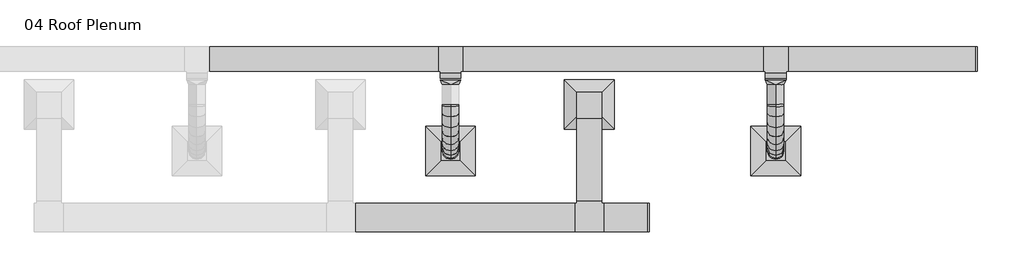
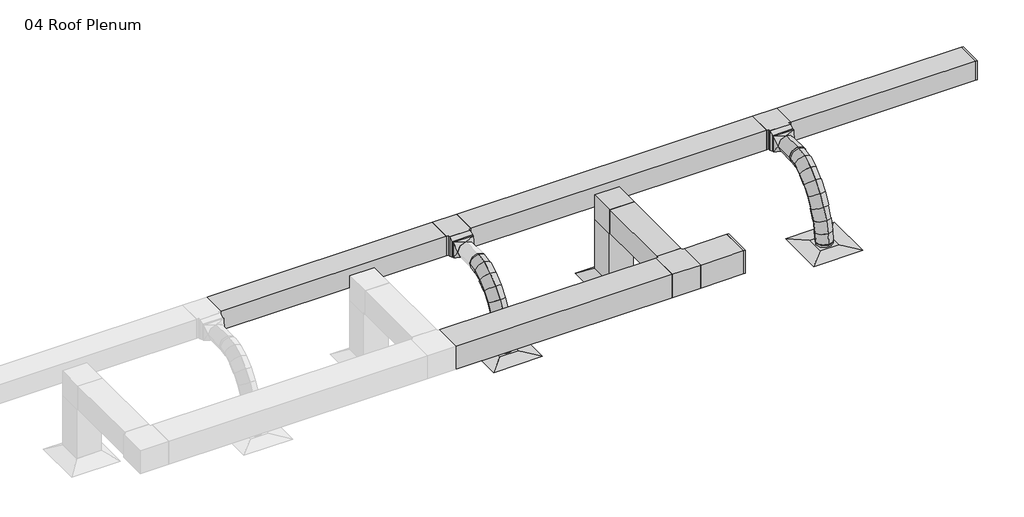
# One storey, part 9 of 9: 11 duct segments, 10 duct fittings, 3 air terminals.
"""IFC4 building model written with IfcOpenShell, lengths in millimetres."""

from ifc_helpers import new_model, si_unit, point, frame, frame_2d, origin, place, context, project, spatial, polyline, circle_curve, ellipse_curve, trimmed, segment, composite_curve, outline, extrude, transform, mapped, element, save
from ifc_brep_helpers import plane_surface, cylinder_surface, advanced_brep
from components import return_diffuser_d30_returndiffuser_24x24_12x12_connection_ff543d60, supply_diffuser_rectangular_face_round_neck_d30_6390248a, rectangular_elbow_mitered_standard_4ff1c4e8, rectangular_endcap_standard_8262ab2a, rectangular_endcap_standard_ef5b1b5f, rectangular_tee_standard_b02a46a0, rectangular_tee_standard_ab376c81, rectangular_transition_angle_45_degree_c4f24900, rectangular_to_round_transition_angle_45_degree_e9430680

model = new_model("IFC4")

# Units and contexts
model_context = context("Model", 3, world=origin())
ifc_project = project(units=[si_unit("LENGTHUNIT", "METRE", prefix="MILLI")], contexts=[model_context])

# Site, building, storey
site = spatial("IfcSite", under=ifc_project)
building = spatial("IfcBuilding", under=site)
storey = spatial("IfcBuildingStorey", under=building, Name="04 Roof Plenum", Elevation=12192.0)

# Air terminals
placement = place(None, origin())
return_diffuser_d30_returndiffuser_24x24_12x12_connection_shape = return_diffuser_d30_returndiffuser_24x24_12x12_connection_ff543d60(model_context)
element("IfcAirTerminal", 1, ObjectType="Return Diffuser : D30_ReturnDiffuser_24x24 12x12 Connection", at=placement, inside=storey, context=model_context, shape_type="MappedRepresentation", body=[
    mapped(return_diffuser_d30_returndiffuser_24x24_12x12_connection_shape, transform((9604.2857295, 10669.6809317, 12192.0), x_axis=(1.0, 0.0, 0.0), y_axis=(0.0, 1.0, 0.0), z_axis=(0.0, 0.0, 1.0))),
])
supply_diffuser_rectangular_face_round_neck_d30_shape = supply_diffuser_rectangular_face_round_neck_d30_6390248a(model_context)
element("IfcAirTerminal", 2, ObjectType="Supply Diffuser - Rectangular Face Round Neck : D30_SupplyDiffuser_24x24 8 Neck", at=placement, inside=storey, context=model_context, shape_type="MappedRepresentation", body=[
    mapped(supply_diffuser_rectangular_face_round_neck_d30_shape, transform((7900.5202951, 10097.0921675, 12192.0), x_axis=(1.0, 0.0, 0.0), y_axis=(0.0, 1.0, 0.0), z_axis=(0.0, 0.0, 1.0))),
])
element("IfcAirTerminal", 3, ObjectType="Supply Diffuser - Rectangular Face Round Neck : D30_SupplyDiffuser_24x24 8 Neck", at=placement, inside=storey, context=model_context, shape_type="MappedRepresentation", body=[
    mapped(supply_diffuser_rectangular_face_round_neck_d30_shape, transform((11896.113352, 10097.0921675, 12192.0), x_axis=(1.0, 0.0, 0.0), y_axis=(0.0, 1.0, 0.0), z_axis=(0.0, 0.0, 1.0))),
])

# Duct fittings
rectangular_elbow_mitered_standard_shape = rectangular_elbow_mitered_standard_4ff1c4e8(model_context)
element("IfcDuctFitting", 4, ObjectType="Rectangular Elbow - Mitered : Standard", at=placement, inside=storey, context=model_context, shape_type="MappedRepresentation", body=[
    mapped(rectangular_elbow_mitered_standard_shape, transform((9604.2857295, 10669.6809317, 13112.75), x_axis=(0.0, 0.0, 1.0), y_axis=(0.0, -1.0, 0.0), z_axis=(1.0, 0.0, 0.0))),
])
rectangular_endcap_standard_shape = rectangular_endcap_standard_8262ab2a(model_context)
element("IfcDuctFitting", 5, ObjectType="Rectangular Endcap : Standard", at=placement, inside=storey, context=model_context, shape_type="MappedRepresentation", body=[
    mapped(rectangular_endcap_standard_shape, transform((10315.4857295, 9280.3101985, 13112.75), x_axis=(1.0, 0.0, 0.0), y_axis=(0.0, 1.0, 0.0), z_axis=(0.0, 0.0, 1.0))),
])
rectangular_endcap_standard_2_shape = rectangular_endcap_standard_ef5b1b5f(model_context)
element("IfcDuctFitting", 6, ObjectType="Rectangular Endcap : Standard", at=placement, inside=storey, context=model_context, shape_type="MappedRepresentation", body=[
    mapped(rectangular_endcap_standard_2_shape, transform((14349.902868, 11228.4809317, 13030.2), x_axis=(1.0, 0.0, 0.0), y_axis=(0.0, 1.0, 0.0), z_axis=(0.0, 0.0, 1.0))),
])
rectangular_tee_standard_shape = rectangular_tee_standard_b02a46a0(model_context)
element("IfcDuctFitting", 7, ObjectType="Rectangular Tee : Standard", at=placement, inside=storey, context=model_context, shape_type="MappedRepresentation", body=[
    mapped(rectangular_tee_standard_shape, transform((9604.2857295, 9280.3101985, 13112.75), x_axis=(-1.0, 0.0, 0.0), y_axis=(0.0, -1.0, 0.0), z_axis=(0.0, 0.0, 1.0))),
])
rectangular_tee_standard_2_shape = rectangular_tee_standard_ab376c81(model_context)
element("IfcDuctFitting", 8, ObjectType="Rectangular Tee : Standard", at=placement, inside=storey, context=model_context, shape_type="MappedRepresentation", body=[
    mapped(rectangular_tee_standard_2_shape, transform((7900.5202951, 11228.4809317, 13030.2), x_axis=(1.0, 0.0, 0.0), y_axis=(0.0, 1.0, 0.0), z_axis=(0.0, 0.0, 1.0))),
])
element("IfcDuctFitting", 9, ObjectType="Rectangular Tee : Standard", at=placement, inside=storey, context=model_context, shape_type="MappedRepresentation", body=[
    mapped(rectangular_tee_standard_2_shape, transform((11896.113352, 11228.4809317, 13030.2), x_axis=(1.0, 0.0, 0.0), y_axis=(0.0, 1.0, 0.0), z_axis=(0.0, 0.0, 1.0))),
])
rectangular_transition_angle_45_degree_shape = rectangular_transition_angle_45_degree_c4f24900(model_context)
element("IfcDuctFitting", 10, ObjectType="Rectangular Transition - Angle : 45 Degree", at=placement, inside=storey, context=model_context, shape_type="MappedRepresentation", body=[
    mapped(rectangular_transition_angle_45_degree_shape, transform((7900.5202951, 11050.6809317, 13030.2), x_axis=(0.0, -1.0, 0.0), y_axis=(1.0, 0.0, 0.0), z_axis=(0.0, 0.0, 1.0))),
])
element("IfcDuctFitting", 11, ObjectType="Rectangular Transition - Angle : 45 Degree", at=placement, inside=storey, context=model_context, shape_type="MappedRepresentation", body=[
    mapped(rectangular_transition_angle_45_degree_shape, transform((11896.113352, 11050.6809317, 13030.2), x_axis=(0.0, -1.0, 0.0), y_axis=(1.0, 0.0, 0.0), z_axis=(0.0, 0.0, 1.0))),
])
rectangular_to_round_transition_angle_45_degree_shape = rectangular_to_round_transition_angle_45_degree_e9430680(model_context)
element("IfcDuctFitting", 12, ObjectType="Rectangular to Round Transition - Angle : 45 Degree", at=placement, inside=storey, context=model_context, shape_type="MappedRepresentation", body=[
    mapped(rectangular_to_round_transition_angle_45_degree_shape, transform((11896.113352, 10974.4809317, 13030.2), x_axis=(0.0, -1.0, 0.0), y_axis=(1.0, 0.0, 0.0), z_axis=(0.0, 0.0, 1.0))),
])
element("IfcDuctFitting", 13, ObjectType="Rectangular to Round Transition - Angle : 45 Degree", at=placement, inside=storey, context=model_context, shape_type="MappedRepresentation", body=[
    mapped(rectangular_to_round_transition_angle_45_degree_shape, transform((7900.5202951, 10974.4809317, 13030.2), x_axis=(0.0, -1.0, 0.0), y_axis=(1.0, 0.0, 0.0), z_axis=(0.0, 0.0, 1.0))),
])

# Duct segments
element("IfcDuctSegment", 14, ObjectType="Flex - Round", at=placement, inside=storey, context=model_context, shape_type="AdvancedBrep", body=[
    advanced_brep(
    [(8002.1202951, 10669.6809317, 13030.2), (7900.5202951, 10669.6809317, 12928.6), (7798.9202951, 10669.6809317, 13030.2), (7900.5202951, 10669.6809317, 13131.8), (8002.1202951, 10652.2882316, 13030.2), (7900.5202951, 10662.5424009, 12928.6), (7798.9202951, 10652.2882316, 13030.2), (7900.5202951, 10642.0340622, 13131.8), (8002.1202951, 10097.0921675, 12245.975), (7900.5202951, 9995.4921675, 12245.975), (7798.9202951, 10097.0921675, 12245.975), (7900.5202951, 10198.6921675, 12245.975), (8002.1202951, 10552.1485052, 13009.7784039), (7900.5202951, 10586.4635053, 12913.0851535), (7798.9202951, 10552.1485052, 13009.7784039), (7900.5202951, 10517.8335052, 13106.4716542), (8002.1202951, 10443.6651982, 12953.1810901), (7900.5202951, 10501.5750524, 12868.7976172), (7798.9202951, 10443.6651982, 12953.1810901), (7900.5202951, 10385.755344, 13037.5645631), (8002.1202951, 10346.2719981, 12867.4092706), (7900.5202951, 10420.5307901, 12797.423909), (7798.9202951, 10346.2719981, 12867.4092706), (7900.5202951, 10272.0132062, 12937.3946321), (8002.1202951, 10262.0098926, 12759.464157), (7900.5202951, 10346.840584, 12703.0220706), (7798.9202951, 10262.0098926, 12759.464157), (7900.5202951, 10177.1792012, 12815.9062434), (8002.1202951, 10192.9198692, 12636.3469613), (7900.5202951, 10284.8852402, 12592.6187474), (7798.9202951, 10192.9198692, 12636.3469613), (7900.5202951, 10100.9544982, 12680.0751753), (8002.1202951, 10141.0429155, 12505.0588954), (7900.5202951, 10238.0545241, 12474.1014926), (7798.9202951, 10141.0429155, 12505.0588954), (7900.5202951, 10044.0313069, 12536.0162982), (8002.1202951, 10108.4200191, 12372.601171), (7900.5202951, 10208.8419323, 12355.4905212), (7798.9202951, 10108.4200191, 12372.601171), (7900.5202951, 10007.9981059, 12389.7118208), (8002.1202951, 10097.0921675, 12255.0278826), (7900.5202951, 10198.6921675, 12250.1447533), (7798.9202951, 10097.0921675, 12255.0278826), (7900.5202951, 9995.4921675, 12259.911012)],
    [
        (0, 1, circle_curve(frame((7900.5202951, 10669.6809317, 13030.2), z_axis=(0.0, 1.0, 0.0), x_axis=(1.0, 0.0, 0.0)), 101.6)),
        (1, 2, circle_curve(frame((7900.5202951, 10669.6809317, 13030.2), z_axis=(0.0, 1.0, 0.0), x_axis=(1.0, 0.0, 0.0)), 101.6)),
        (2, 3, circle_curve(frame((7900.5202951, 10669.6809317, 13030.2), z_axis=(0.0, 1.0, 0.0), x_axis=(1.0, 0.0, 0.0)), 101.6)),
        (3, 0, circle_curve(frame((7900.5202951, 10669.6809317, 13030.2), z_axis=(0.0, 1.0, 0.0), x_axis=(1.0, 0.0, 0.0)), 101.6)),
        (0, 4),
        (4, 5, ellipse_curve(frame((7900.5202951, 10652.2882316, 13030.2), z_axis=(0.0, 0.9949454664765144, 0.1004167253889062), x_axis=(0.0, 0.1004167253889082, -0.9949454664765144)), 102.1161495, 101.6)),
        (5, 1),
        (5, 6, ellipse_curve(frame((7900.5202951, 10652.2882316, 13030.2), z_axis=(0.0, 0.9949454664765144, 0.1004167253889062), x_axis=(0.0, 0.1004167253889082, -0.9949454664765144)), 102.1161495, 101.6)),
        (6, 2),
        (6, 7, ellipse_curve(frame((7900.5202951, 10652.2882316, 13030.2), z_axis=(0.0, 0.9949454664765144, 0.1004167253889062), x_axis=(0.0, 0.1004167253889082, -0.9949454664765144)), 102.1161495, 101.6)),
        (7, 3),
        (7, 4, ellipse_curve(frame((7900.5202951, 10652.2882316, 13030.2), z_axis=(0.0, 0.9949454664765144, 0.1004167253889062), x_axis=(0.0, 0.1004167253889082, -0.9949454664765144)), 102.1161495, 101.6)),
        (8, 9, circle_curve(frame((7900.5202951, 10097.0921675, 12245.975), z_axis=(0.0, 0.0, -1.0), x_axis=(1.0, 0.0, 0.0)), 101.6)),
        (9, 10, circle_curve(frame((7900.5202951, 10097.0921675, 12245.975), z_axis=(0.0, 0.0, -1.0), x_axis=(1.0, 0.0, 0.0)), 101.6)),
        (10, 11, circle_curve(frame((7900.5202951, 10097.0921675, 12245.975), z_axis=(0.0, 0.0, -1.0), x_axis=(1.0, 0.0, 0.0)), 101.6)),
        (11, 8, circle_curve(frame((7900.5202951, 10097.0921675, 12245.975), z_axis=(0.0, 0.0, -1.0), x_axis=(1.0, 0.0, 0.0)), 101.6)),
        (4, 12),
        (12, 13, ellipse_curve(frame((7900.5202951, 10552.1485052, 13009.7784039), z_axis=(0.0, 0.9424139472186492, 0.334448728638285), x_axis=(0.0, 0.33444872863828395, -0.9424139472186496)), 102.6016759, 101.6)),
        (13, 5),
        (13, 14, ellipse_curve(frame((7900.5202951, 10552.1485052, 13009.7784039), z_axis=(0.0, 0.9424139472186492, 0.334448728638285), x_axis=(0.0, 0.33444872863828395, -0.9424139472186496)), 102.6016759, 101.6)),
        (14, 6),
        (14, 15, ellipse_curve(frame((7900.5202951, 10552.1485052, 13009.7784039), z_axis=(0.0, 0.9424139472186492, 0.334448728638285), x_axis=(0.0, 0.33444872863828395, -0.9424139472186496)), 102.6016759, 101.6)),
        (15, 7),
        (15, 12, ellipse_curve(frame((7900.5202951, 10552.1485052, 13009.7784039), z_axis=(0.0, 0.9424139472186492, 0.334448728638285), x_axis=(0.0, 0.33444872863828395, -0.9424139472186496)), 102.6016759, 101.6)),
        (12, 16),
        (16, 17, ellipse_curve(frame((7900.5202951, 10443.6651982, 12953.1810901), z_axis=(0.0, 0.8245150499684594, 0.5658400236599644), x_axis=(0.0, 0.565840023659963, -0.8245150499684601)), 102.3431567, 101.6)),
        (17, 13),
        (17, 18, ellipse_curve(frame((7900.5202951, 10443.6651982, 12953.1810901), z_axis=(0.0, 0.8245150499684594, 0.5658400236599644), x_axis=(0.0, 0.565840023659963, -0.8245150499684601)), 102.3431567, 101.6)),
        (18, 14),
        (18, 19, ellipse_curve(frame((7900.5202951, 10443.6651982, 12953.1810901), z_axis=(0.0, 0.8245150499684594, 0.5658400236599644), x_axis=(0.0, 0.565840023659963, -0.8245150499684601)), 102.3431567, 101.6)),
        (19, 15),
        (19, 16, ellipse_curve(frame((7900.5202951, 10443.6651982, 12953.1810901), z_axis=(0.0, 0.8245150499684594, 0.5658400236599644), x_axis=(0.0, 0.565840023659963, -0.8245150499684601)), 102.3431567, 101.6)),
        (16, 20),
        (20, 21, ellipse_curve(frame((7900.5202951, 10346.2719981, 12867.4092706), z_axis=(0.0, 0.6858568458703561, 0.7277364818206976), x_axis=(0.0, 0.7277364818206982, -0.6858568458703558)), 102.0407714, 101.6)),
        (21, 17),
        (21, 22, ellipse_curve(frame((7900.5202951, 10346.2719981, 12867.4092706), z_axis=(0.0, 0.6858568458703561, 0.7277364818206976), x_axis=(0.0, 0.7277364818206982, -0.6858568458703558)), 102.0407714, 101.6)),
        (22, 18),
        (22, 23, ellipse_curve(frame((7900.5202951, 10346.2719981, 12867.4092706), z_axis=(0.0, 0.6858568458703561, 0.7277364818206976), x_axis=(0.0, 0.7277364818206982, -0.6858568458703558)), 102.0407714, 101.6)),
        (23, 19),
        (23, 20, ellipse_curve(frame((7900.5202951, 10346.2719981, 12867.4092706), z_axis=(0.0, 0.6858568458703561, 0.7277364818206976), x_axis=(0.0, 0.7277364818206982, -0.6858568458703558)), 102.0407714, 101.6)),
        (20, 24),
        (24, 25, ellipse_curve(frame((7900.5202951, 10262.0098926, 12759.464157), z_axis=(0.0, 0.5539409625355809, 0.8325559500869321), x_axis=(0.0, 0.8325559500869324, -0.5539409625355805)), 101.8918805, 101.6)),
        (25, 21),
        (25, 26, ellipse_curve(frame((7900.5202951, 10262.0098926, 12759.464157), z_axis=(0.0, 0.5539409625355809, 0.8325559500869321), x_axis=(0.0, 0.8325559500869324, -0.5539409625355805)), 101.8918805, 101.6)),
        (26, 22),
        (26, 27, ellipse_curve(frame((7900.5202951, 10262.0098926, 12759.464157), z_axis=(0.0, 0.5539409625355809, 0.8325559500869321), x_axis=(0.0, 0.8325559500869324, -0.5539409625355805)), 101.8918805, 101.6)),
        (27, 23),
        (27, 24, ellipse_curve(frame((7900.5202951, 10262.0098926, 12759.464157), z_axis=(0.0, 0.5539409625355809, 0.8325559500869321), x_axis=(0.0, 0.8325559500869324, -0.5539409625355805)), 101.8918805, 101.6)),
        (24, 28),
        (28, 29, ellipse_curve(frame((7900.5202951, 10192.9198692, 12636.3469613), z_axis=(0.0, 0.4294146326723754, 0.9031074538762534), x_axis=(0.0, 0.903107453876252, -0.4294146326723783)), 101.832147, 101.6)),
        (29, 25),
        (29, 30, ellipse_curve(frame((7900.5202951, 10192.9198692, 12636.3469613), z_axis=(0.0, 0.4294146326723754, 0.9031074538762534), x_axis=(0.0, 0.903107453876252, -0.4294146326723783)), 101.832147, 101.6)),
        (30, 26),
        (30, 31, ellipse_curve(frame((7900.5202951, 10192.9198692, 12636.3469613), z_axis=(0.0, 0.4294146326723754, 0.9031074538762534), x_axis=(0.0, 0.903107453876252, -0.4294146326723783)), 101.832147, 101.6)),
        (31, 27),
        (31, 28, ellipse_curve(frame((7900.5202951, 10192.9198692, 12636.3469613), z_axis=(0.0, 0.4294146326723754, 0.9031074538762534), x_axis=(0.0, 0.903107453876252, -0.4294146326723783)), 101.832147, 101.6)),
        (28, 32),
        (32, 33, ellipse_curve(frame((7900.5202951, 10141.0429155, 12505.0588954), z_axis=(0.0, 0.3040067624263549, 0.9526698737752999), x_axis=(0.0, 0.9526698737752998, -0.30400676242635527)), 101.8312967, 101.6)),
        (33, 29),
        (33, 34, ellipse_curve(frame((7900.5202951, 10141.0429155, 12505.0588954), z_axis=(0.0, 0.3040067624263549, 0.9526698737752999), x_axis=(0.0, 0.9526698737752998, -0.30400676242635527)), 101.8312967, 101.6)),
        (34, 30),
        (34, 35, ellipse_curve(frame((7900.5202951, 10141.0429155, 12505.0588954), z_axis=(0.0, 0.3040067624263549, 0.9526698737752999), x_axis=(0.0, 0.9526698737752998, -0.30400676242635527)), 101.8312967, 101.6)),
        (35, 31),
        (35, 32, ellipse_curve(frame((7900.5202951, 10141.0429155, 12505.0588954), z_axis=(0.0, 0.3040067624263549, 0.9526698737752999), x_axis=(0.0, 0.9526698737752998, -0.30400676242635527)), 101.8312967, 101.6)),
        (32, 36),
        (36, 37, ellipse_curve(frame((7900.5202951, 10108.4200191, 12372.601171), z_axis=(0.0, 0.16796685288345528, 0.9857926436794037), x_axis=(0.0, 0.9857926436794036, -0.1679668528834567)), 101.8692053, 101.6)),
        (37, 33),
        (37, 38, ellipse_curve(frame((7900.5202951, 10108.4200191, 12372.601171), z_axis=(0.0, 0.16796685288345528, 0.9857926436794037), x_axis=(0.0, 0.9857926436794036, -0.1679668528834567)), 101.8692053, 101.6)),
        (38, 34),
        (38, 39, ellipse_curve(frame((7900.5202951, 10108.4200191, 12372.601171), z_axis=(0.0, 0.16796685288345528, 0.9857926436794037), x_axis=(0.0, 0.9857926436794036, -0.1679668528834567)), 101.8692053, 101.6)),
        (39, 35),
        (39, 36, ellipse_curve(frame((7900.5202951, 10108.4200191, 12372.601171), z_axis=(0.0, 0.16796685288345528, 0.9857926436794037), x_axis=(0.0, 0.9857926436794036, -0.1679668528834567)), 101.8692053, 101.6)),
        (36, 40),
        (40, 41, ellipse_curve(frame((7900.5202951, 10097.0921675, 12255.0278826), z_axis=(0.0, 0.0480068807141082, 0.9988470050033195), x_axis=(0.0, 0.9988470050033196, -0.048006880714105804)), 101.7172795, 101.6)),
        (41, 37),
        (41, 42, ellipse_curve(frame((7900.5202951, 10097.0921675, 12255.0278826), z_axis=(0.0, 0.0480068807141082, 0.9988470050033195), x_axis=(0.0, 0.9988470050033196, -0.048006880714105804)), 101.7172795, 101.6)),
        (42, 38),
        (42, 43, ellipse_curve(frame((7900.5202951, 10097.0921675, 12255.0278826), z_axis=(0.0, 0.0480068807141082, 0.9988470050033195), x_axis=(0.0, 0.9988470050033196, -0.048006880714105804)), 101.7172795, 101.6)),
        (43, 39),
        (43, 40, ellipse_curve(frame((7900.5202951, 10097.0921675, 12255.0278826), z_axis=(0.0, 0.0480068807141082, 0.9988470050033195), x_axis=(0.0, 0.9988470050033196, -0.048006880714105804)), 101.7172795, 101.6)),
        (40, 8),
        (11, 41),
        (10, 42),
        (9, 43),
    ],
    [
        plane_surface(frame((7798.9202951, 10669.6809317, 13030.2), z_axis=(0.0, 1.0, 0.0), x_axis=(0.0, 0.0, -1.0))),
        cylinder_surface(frame((7900.5202951, 10669.6809317, 13030.2), z_axis=(0.0, 1.0, 0.0), x_axis=(1.0, 0.0, 0.0)), 101.6),
        plane_surface(frame((7900.5202951, 9995.4921675, 12245.975), z_axis=(0.0, 0.0, -1.0), x_axis=(-1.0, 0.0, 0.0))),
        cylinder_surface(frame((7900.5202951, 10652.2882316, 13030.2), z_axis=(0.0, 0.979832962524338, 0.1998183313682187), x_axis=(1.0, 0.0, 0.0)), 101.6),
        cylinder_surface(frame((7900.5202951, 10552.1485052, 13009.7784039), z_axis=(0.0, 0.8865938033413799, 0.4625488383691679), x_axis=(1.0, 0.0, 0.0)), 101.6),
        cylinder_surface(frame((7900.5202951, 10443.6651982, 12953.1810901), z_axis=(0.0, 0.7504619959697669, 0.6609136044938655), x_axis=(1.0, 0.0, 0.0)), 101.6),
        cylinder_surface(frame((7900.5202951, 10346.2719981, 12867.4092706), z_axis=(0.0, 0.6153264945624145, 0.7882723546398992), x_axis=(1.0, 0.0, 0.0)), 101.6),
        cylinder_surface(frame((7900.5202951, 10262.0098926, 12759.464157), z_axis=(0.0, 0.4893817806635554, 0.8720696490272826), x_axis=(1.0, 0.0, 0.0)), 101.6),
        cylinder_surface(frame((7900.5202951, 10192.9198692, 12636.3469613), z_axis=(0.0, 0.367489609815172, 0.9300276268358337), x_axis=(1.0, 0.0, 0.0)), 101.6),
        cylinder_surface(frame((7900.5202951, 10141.0429155, 12505.0588954), z_axis=(0.0, 0.23914289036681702, 0.9709843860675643), x_axis=(1.0, 0.0, 0.0)), 101.6),
        cylinder_surface(frame((7900.5202951, 10108.4200191, 12372.601171), z_axis=(0.0, 0.09590305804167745, 0.9953906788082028), x_axis=(1.0, 0.0, 0.0)), 101.6),
        cylinder_surface(frame((7900.5202951, 10097.0921675, 12255.0278826), z_axis=(0.0, 0.0, 1.0), x_axis=(1.0, 0.0, 0.0)), 101.6),
    ],
    [
        (0, [[1, 2, 3, 4]]),
        (1, [[-1, 5, 6, 7]]),
        (1, [[-2, -7, 8, 9]]),
        (1, [[-3, -9, 10, 11]]),
        (1, [[-4, -11, 12, -5]]),
        (2, [[13, 14, 15, 16]]),
        (3, [[-6, 17, 18, 19]]),
        (3, [[-8, -19, 20, 21]]),
        (3, [[-10, -21, 22, 23]]),
        (3, [[-12, -23, 24, -17]]),
        (4, [[-18, 25, 26, 27]]),
        (4, [[-20, -27, 28, 29]]),
        (4, [[-22, -29, 30, 31]]),
        (4, [[-24, -31, 32, -25]]),
        (5, [[-26, 33, 34, 35]]),
        (5, [[-28, -35, 36, 37]]),
        (5, [[-30, -37, 38, 39]]),
        (5, [[-32, -39, 40, -33]]),
        (6, [[-34, 41, 42, 43]]),
        (6, [[-36, -43, 44, 45]]),
        (6, [[-38, -45, 46, 47]]),
        (6, [[-40, -47, 48, -41]]),
        (7, [[-42, 49, 50, 51]]),
        (7, [[-44, -51, 52, 53]]),
        (7, [[-46, -53, 54, 55]]),
        (7, [[-48, -55, 56, -49]]),
        (8, [[-50, 57, 58, 59]]),
        (8, [[-52, -59, 60, 61]]),
        (8, [[-54, -61, 62, 63]]),
        (8, [[-56, -63, 64, -57]]),
        (9, [[-58, 65, 66, 67]]),
        (9, [[-60, -67, 68, 69]]),
        (9, [[-62, -69, 70, 71]]),
        (9, [[-64, -71, 72, -65]]),
        (10, [[-66, 73, 74, 75]]),
        (10, [[-68, -75, 76, 77]]),
        (10, [[-70, -77, 78, 79]]),
        (10, [[-72, -79, 80, -73]]),
        (11, [[-74, 81, -16, 82]]),
        (11, [[-76, -82, -15, 83]]),
        (11, [[-78, -83, -14, 84]]),
        (11, [[-80, -84, -13, -81]]),
    ],
),
])
element("IfcDuctSegment", 15, ObjectType="Flex - Round", at=placement, inside=storey, context=model_context, shape_type="AdvancedBrep", body=[
    advanced_brep(
    [(11997.713352, 10669.6809317, 13030.2), (11896.113352, 10669.6809317, 12928.6), (11794.513352, 10669.6809317, 13030.2), (11896.113352, 10669.6809317, 13131.8), (11997.713352, 10652.2882316, 13030.2), (11896.113352, 10662.5424009, 12928.6), (11794.513352, 10652.2882316, 13030.2), (11896.113352, 10642.0340622, 13131.8), (11997.713352, 10097.0921675, 12245.975), (11896.113352, 9995.4921675, 12245.975), (11794.513352, 10097.0921675, 12245.975), (11896.113352, 10198.6921675, 12245.975), (11997.713352, 10552.1485052, 13009.7784039), (11896.113352, 10586.4635053, 12913.0851535), (11794.513352, 10552.1485052, 13009.7784039), (11896.113352, 10517.8335052, 13106.4716542), (11997.713352, 10443.6651982, 12953.1810901), (11896.113352, 10501.5750524, 12868.7976172), (11794.513352, 10443.6651982, 12953.1810901), (11896.113352, 10385.755344, 13037.5645631), (11997.713352, 10346.2719981, 12867.4092706), (11896.113352, 10420.5307901, 12797.423909), (11794.513352, 10346.2719981, 12867.4092706), (11896.113352, 10272.0132062, 12937.3946321), (11997.713352, 10262.0098926, 12759.464157), (11896.113352, 10346.840584, 12703.0220706), (11794.513352, 10262.0098926, 12759.464157), (11896.113352, 10177.1792012, 12815.9062434), (11997.713352, 10192.9198692, 12636.3469613), (11896.113352, 10284.8852402, 12592.6187474), (11794.513352, 10192.9198692, 12636.3469613), (11896.113352, 10100.9544982, 12680.0751753), (11997.713352, 10141.0429155, 12505.0588954), (11896.113352, 10238.0545241, 12474.1014926), (11794.513352, 10141.0429155, 12505.0588954), (11896.113352, 10044.0313069, 12536.0162982), (11997.713352, 10108.4200191, 12372.601171), (11896.113352, 10208.8419323, 12355.4905212), (11794.513352, 10108.4200191, 12372.601171), (11896.113352, 10007.9981059, 12389.7118208), (11997.713352, 10097.0921675, 12255.0278826), (11896.113352, 10198.6921675, 12250.1447533), (11794.513352, 10097.0921675, 12255.0278826), (11896.113352, 9995.4921675, 12259.911012)],
    [
        (0, 1, circle_curve(frame((11896.113352, 10669.6809317, 13030.2), z_axis=(0.0, 1.0, 0.0), x_axis=(1.0, 0.0, 0.0)), 101.6)),
        (1, 2, circle_curve(frame((11896.113352, 10669.6809317, 13030.2), z_axis=(0.0, 1.0, 0.0), x_axis=(1.0, 0.0, 0.0)), 101.6)),
        (2, 3, circle_curve(frame((11896.113352, 10669.6809317, 13030.2), z_axis=(0.0, 1.0, 0.0), x_axis=(1.0, 0.0, 0.0)), 101.6)),
        (3, 0, circle_curve(frame((11896.113352, 10669.6809317, 13030.2), z_axis=(0.0, 1.0, 0.0), x_axis=(1.0, 0.0, 0.0)), 101.6)),
        (0, 4),
        (4, 5, ellipse_curve(frame((11896.113352, 10652.2882316, 13030.2), z_axis=(0.0, 0.9949454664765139, 0.1004167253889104), x_axis=(0.0, 0.10041672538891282, -0.9949454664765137)), 102.1161495, 101.6)),
        (5, 1),
        (5, 6, ellipse_curve(frame((11896.113352, 10652.2882316, 13030.2), z_axis=(0.0, 0.9949454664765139, 0.1004167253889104), x_axis=(0.0, 0.10041672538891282, -0.9949454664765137)), 102.1161495, 101.6)),
        (6, 2),
        (6, 7, ellipse_curve(frame((11896.113352, 10652.2882316, 13030.2), z_axis=(0.0, 0.9949454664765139, 0.1004167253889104), x_axis=(0.0, 0.10041672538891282, -0.9949454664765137)), 102.1161495, 101.6)),
        (7, 3),
        (7, 4, ellipse_curve(frame((11896.113352, 10652.2882316, 13030.2), z_axis=(0.0, 0.9949454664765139, 0.1004167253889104), x_axis=(0.0, 0.10041672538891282, -0.9949454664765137)), 102.1161495, 101.6)),
        (8, 9, circle_curve(frame((11896.113352, 10097.0921675, 12245.975), z_axis=(0.0, 0.0, -1.0), x_axis=(1.0, 0.0, 0.0)), 101.6)),
        (9, 10, circle_curve(frame((11896.113352, 10097.0921675, 12245.975), z_axis=(0.0, 0.0, -1.0), x_axis=(1.0, 0.0, 0.0)), 101.6)),
        (10, 11, circle_curve(frame((11896.113352, 10097.0921675, 12245.975), z_axis=(0.0, 0.0, -1.0), x_axis=(1.0, 0.0, 0.0)), 101.6)),
        (11, 8, circle_curve(frame((11896.113352, 10097.0921675, 12245.975), z_axis=(0.0, 0.0, -1.0), x_axis=(1.0, 0.0, 0.0)), 101.6)),
        (4, 12),
        (12, 13, ellipse_curve(frame((11896.113352, 10552.1485052, 13009.7784039), z_axis=(0.0, 0.9424139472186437, 0.33444872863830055), x_axis=(0.0, 0.3344487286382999, -0.9424139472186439)), 102.6016759, 101.6)),
        (13, 5),
        (13, 14, ellipse_curve(frame((11896.113352, 10552.1485052, 13009.7784039), z_axis=(0.0, 0.9424139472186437, 0.33444872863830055), x_axis=(0.0, 0.3344487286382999, -0.9424139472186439)), 102.6016759, 101.6)),
        (14, 6),
        (14, 15, ellipse_curve(frame((11896.113352, 10552.1485052, 13009.7784039), z_axis=(0.0, 0.9424139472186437, 0.33444872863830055), x_axis=(0.0, 0.3344487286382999, -0.9424139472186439)), 102.6016759, 101.6)),
        (15, 7),
        (15, 12, ellipse_curve(frame((11896.113352, 10552.1485052, 13009.7784039), z_axis=(0.0, 0.9424139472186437, 0.33444872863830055), x_axis=(0.0, 0.3344487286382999, -0.9424139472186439)), 102.6016759, 101.6)),
        (12, 16),
        (16, 17, ellipse_curve(frame((11896.113352, 10443.6651982, 12953.1810901), z_axis=(0.0, 0.8245150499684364, 0.5658400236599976), x_axis=(0.0, 0.5658400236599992, -0.8245150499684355)), 102.3431567, 101.6)),
        (17, 13),
        (17, 18, ellipse_curve(frame((11896.113352, 10443.6651982, 12953.1810901), z_axis=(0.0, 0.8245150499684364, 0.5658400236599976), x_axis=(0.0, 0.5658400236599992, -0.8245150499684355)), 102.3431567, 101.6)),
        (18, 14),
        (18, 19, ellipse_curve(frame((11896.113352, 10443.6651982, 12953.1810901), z_axis=(0.0, 0.8245150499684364, 0.5658400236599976), x_axis=(0.0, 0.5658400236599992, -0.8245150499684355)), 102.3431567, 101.6)),
        (19, 15),
        (19, 16, ellipse_curve(frame((11896.113352, 10443.6651982, 12953.1810901), z_axis=(0.0, 0.8245150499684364, 0.5658400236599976), x_axis=(0.0, 0.5658400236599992, -0.8245150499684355)), 102.3431567, 101.6)),
        (16, 20),
        (20, 21, ellipse_curve(frame((11896.113352, 10346.2719981, 12867.4092706), z_axis=(0.0, 0.6858568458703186, 0.7277364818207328), x_axis=(0.0, 0.7277364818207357, -0.6858568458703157)), 102.0407714, 101.6)),
        (21, 17),
        (21, 22, ellipse_curve(frame((11896.113352, 10346.2719981, 12867.4092706), z_axis=(0.0, 0.6858568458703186, 0.7277364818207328), x_axis=(0.0, 0.7277364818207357, -0.6858568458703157)), 102.0407714, 101.6)),
        (22, 18),
        (22, 23, ellipse_curve(frame((11896.113352, 10346.2719981, 12867.4092706), z_axis=(0.0, 0.6858568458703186, 0.7277364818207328), x_axis=(0.0, 0.7277364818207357, -0.6858568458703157)), 102.0407714, 101.6)),
        (23, 19),
        (23, 20, ellipse_curve(frame((11896.113352, 10346.2719981, 12867.4092706), z_axis=(0.0, 0.6858568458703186, 0.7277364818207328), x_axis=(0.0, 0.7277364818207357, -0.6858568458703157)), 102.0407714, 101.6)),
        (20, 24),
        (24, 25, ellipse_curve(frame((11896.113352, 10262.0098926, 12759.464157), z_axis=(0.0, 0.5539409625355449, 0.8325559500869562), x_axis=(0.0, 0.832555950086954, -0.5539409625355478)), 101.8918805, 101.6)),
        (25, 21),
        (25, 26, ellipse_curve(frame((11896.113352, 10262.0098926, 12759.464157), z_axis=(0.0, 0.5539409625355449, 0.8325559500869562), x_axis=(0.0, 0.832555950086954, -0.5539409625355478)), 101.8918805, 101.6)),
        (26, 22),
        (26, 27, ellipse_curve(frame((11896.113352, 10262.0098926, 12759.464157), z_axis=(0.0, 0.5539409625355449, 0.8325559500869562), x_axis=(0.0, 0.832555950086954, -0.5539409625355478)), 101.8918805, 101.6)),
        (27, 23),
        (27, 24, ellipse_curve(frame((11896.113352, 10262.0098926, 12759.464157), z_axis=(0.0, 0.5539409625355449, 0.8325559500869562), x_axis=(0.0, 0.832555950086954, -0.5539409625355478)), 101.8918805, 101.6)),
        (24, 28),
        (28, 29, ellipse_curve(frame((11896.113352, 10192.9198692, 12636.3469613), z_axis=(0.0, 0.429414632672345, 0.9031074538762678), x_axis=(0.0, 0.9031074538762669, -0.4294146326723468)), 101.832147, 101.6)),
        (29, 25),
        (29, 30, ellipse_curve(frame((11896.113352, 10192.9198692, 12636.3469613), z_axis=(0.0, 0.429414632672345, 0.9031074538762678), x_axis=(0.0, 0.9031074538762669, -0.4294146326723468)), 101.832147, 101.6)),
        (30, 26),
        (30, 31, ellipse_curve(frame((11896.113352, 10192.9198692, 12636.3469613), z_axis=(0.0, 0.429414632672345, 0.9031074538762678), x_axis=(0.0, 0.9031074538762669, -0.4294146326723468)), 101.832147, 101.6)),
        (31, 27),
        (31, 28, ellipse_curve(frame((11896.113352, 10192.9198692, 12636.3469613), z_axis=(0.0, 0.429414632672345, 0.9031074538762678), x_axis=(0.0, 0.9031074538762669, -0.4294146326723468)), 101.832147, 101.6)),
        (28, 32),
        (32, 33, ellipse_curve(frame((11896.113352, 10141.0429155, 12505.0588954), z_axis=(0.0, 0.30400676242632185, 0.9526698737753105), x_axis=(0.0, 0.9526698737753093, -0.30400676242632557)), 101.8312967, 101.6)),
        (33, 29),
        (33, 34, ellipse_curve(frame((11896.113352, 10141.0429155, 12505.0588954), z_axis=(0.0, 0.30400676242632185, 0.9526698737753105), x_axis=(0.0, 0.9526698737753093, -0.30400676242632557)), 101.8312967, 101.6)),
        (34, 30),
        (34, 35, ellipse_curve(frame((11896.113352, 10141.0429155, 12505.0588954), z_axis=(0.0, 0.30400676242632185, 0.9526698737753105), x_axis=(0.0, 0.9526698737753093, -0.30400676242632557)), 101.8312967, 101.6)),
        (35, 31),
        (35, 32, ellipse_curve(frame((11896.113352, 10141.0429155, 12505.0588954), z_axis=(0.0, 0.30400676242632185, 0.9526698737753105), x_axis=(0.0, 0.9526698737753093, -0.30400676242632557)), 101.8312967, 101.6)),
        (32, 36),
        (36, 37, ellipse_curve(frame((11896.113352, 10108.4200191, 12372.601171), z_axis=(0.0, 0.16796685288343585, 0.985792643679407), x_axis=(0.0, 0.9857926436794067, -0.16796685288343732)), 101.8692053, 101.6)),
        (37, 33),
        (37, 38, ellipse_curve(frame((11896.113352, 10108.4200191, 12372.601171), z_axis=(0.0, 0.16796685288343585, 0.985792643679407), x_axis=(0.0, 0.9857926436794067, -0.16796685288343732)), 101.8692053, 101.6)),
        (38, 34),
        (38, 39, ellipse_curve(frame((11896.113352, 10108.4200191, 12372.601171), z_axis=(0.0, 0.16796685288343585, 0.985792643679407), x_axis=(0.0, 0.9857926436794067, -0.16796685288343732)), 101.8692053, 101.6)),
        (39, 35),
        (39, 36, ellipse_curve(frame((11896.113352, 10108.4200191, 12372.601171), z_axis=(0.0, 0.16796685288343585, 0.985792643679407), x_axis=(0.0, 0.9857926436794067, -0.16796685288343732)), 101.8692053, 101.6)),
        (36, 40),
        (40, 41, ellipse_curve(frame((11896.113352, 10097.0921675, 12255.0278826), z_axis=(0.0, 0.048006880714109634, 0.9988470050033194), x_axis=(0.0, 0.9988470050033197, -0.04800688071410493)), 101.7172795, 101.6)),
        (41, 37),
        (41, 42, ellipse_curve(frame((11896.113352, 10097.0921675, 12255.0278826), z_axis=(0.0, 0.048006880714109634, 0.9988470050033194), x_axis=(0.0, 0.9988470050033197, -0.04800688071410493)), 101.7172795, 101.6)),
        (42, 38),
        (42, 43, ellipse_curve(frame((11896.113352, 10097.0921675, 12255.0278826), z_axis=(0.0, 0.048006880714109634, 0.9988470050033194), x_axis=(0.0, 0.9988470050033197, -0.04800688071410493)), 101.7172795, 101.6)),
        (43, 39),
        (43, 40, ellipse_curve(frame((11896.113352, 10097.0921675, 12255.0278826), z_axis=(0.0, 0.048006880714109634, 0.9988470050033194), x_axis=(0.0, 0.9988470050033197, -0.04800688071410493)), 101.7172795, 101.6)),
        (40, 8),
        (11, 41),
        (10, 42),
        (9, 43),
    ],
    [
        plane_surface(frame((11794.513352, 10669.6809317, 13030.2), z_axis=(0.0, 1.0, 0.0), x_axis=(0.0, 0.0, -1.0))),
        cylinder_surface(frame((11896.113352, 10669.6809317, 13030.2), z_axis=(0.0, 1.0, 0.0), x_axis=(1.0, 0.0, 0.0)), 101.6),
        plane_surface(frame((11896.113352, 9995.4921675, 12245.975), z_axis=(0.0, 0.0, -1.0), x_axis=(-1.0, 0.0, 0.0))),
        cylinder_surface(frame((11896.113352, 10652.2882316, 13030.2), z_axis=(0.0, 0.9798329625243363, 0.19981833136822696), x_axis=(1.0, 0.0, 0.0)), 101.6),
        cylinder_surface(frame((11896.113352, 10552.1485052, 13009.7784039), z_axis=(0.0, 0.8865938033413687, 0.46254883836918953), x_axis=(1.0, 0.0, 0.0)), 101.6),
        cylinder_surface(frame((11896.113352, 10443.6651982, 12953.1810901), z_axis=(0.0, 0.7504619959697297, 0.6609136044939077), x_axis=(1.0, 0.0, 0.0)), 101.6),
        cylinder_surface(frame((11896.113352, 10346.2719981, 12867.4092706), z_axis=(0.0, 0.6153264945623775, 0.788272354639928), x_axis=(1.0, 0.0, 0.0)), 101.6),
        cylinder_surface(frame((11896.113352, 10262.0098926, 12759.464157), z_axis=(0.0, 0.48938178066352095, 0.872069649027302), x_axis=(1.0, 0.0, 0.0)), 101.6),
        cylinder_surface(frame((11896.113352, 10192.9198692, 12636.3469613), z_axis=(0.0, 0.3674896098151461, 0.9300276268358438), x_axis=(1.0, 0.0, 0.0)), 101.6),
        cylinder_surface(frame((11896.113352, 10141.0429155, 12505.0588954), z_axis=(0.0, 0.23914289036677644, 0.9709843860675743), x_axis=(1.0, 0.0, 0.0)), 101.6),
        cylinder_surface(frame((11896.113352, 10108.4200191, 12372.601171), z_axis=(0.0, 0.09590305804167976, 0.9953906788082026), x_axis=(1.0, 0.0, 0.0)), 101.6),
        cylinder_surface(frame((11896.113352, 10097.0921675, 12255.0278826), z_axis=(0.0, 0.0, 1.0), x_axis=(1.0, 0.0, 0.0)), 101.6),
    ],
    [
        (0, [[1, 2, 3, 4]]),
        (1, [[-1, 5, 6, 7]]),
        (1, [[-2, -7, 8, 9]]),
        (1, [[-3, -9, 10, 11]]),
        (1, [[-4, -11, 12, -5]]),
        (2, [[13, 14, 15, 16]]),
        (3, [[-6, 17, 18, 19]]),
        (3, [[-8, -19, 20, 21]]),
        (3, [[-10, -21, 22, 23]]),
        (3, [[-12, -23, 24, -17]]),
        (4, [[-18, 25, 26, 27]]),
        (4, [[-20, -27, 28, 29]]),
        (4, [[-22, -29, 30, 31]]),
        (4, [[-24, -31, 32, -25]]),
        (5, [[-26, 33, 34, 35]]),
        (5, [[-28, -35, 36, 37]]),
        (5, [[-30, -37, 38, 39]]),
        (5, [[-32, -39, 40, -33]]),
        (6, [[-34, 41, 42, 43]]),
        (6, [[-36, -43, 44, 45]]),
        (6, [[-38, -45, 46, 47]]),
        (6, [[-40, -47, 48, -41]]),
        (7, [[-42, 49, 50, 51]]),
        (7, [[-44, -51, 52, 53]]),
        (7, [[-46, -53, 54, 55]]),
        (7, [[-48, -55, 56, -49]]),
        (8, [[-50, 57, 58, 59]]),
        (8, [[-52, -59, 60, 61]]),
        (8, [[-54, -61, 62, 63]]),
        (8, [[-56, -63, 64, -57]]),
        (9, [[-58, 65, 66, 67]]),
        (9, [[-60, -67, 68, 69]]),
        (9, [[-62, -69, 70, 71]]),
        (9, [[-64, -71, 72, -65]]),
        (10, [[-66, 73, 74, 75]]),
        (10, [[-68, -75, 76, 77]]),
        (10, [[-70, -77, 78, 79]]),
        (10, [[-72, -79, 80, -73]]),
        (11, [[-74, 81, -16, 82]]),
        (11, [[-76, -82, -15, 83]]),
        (11, [[-78, -83, -14, 84]]),
        (11, [[-80, -84, -13, -81]]),
    ],
),
])
element("IfcDuctSegment", 16, ObjectType="Mitered Elbows / Taps", at=placement, inside=storey, context=model_context, shape_type="SweptSolid", body=[
    extrude(outline(polyline([(9782.0857295, 9102.5101985), (9782.0857295, 9458.1101985), (10315.4857295, 9458.1101985), (10315.4857295, 9102.5101985), (9782.0857295, 9102.5101985)])), frame((0.0, 0.0, 12960.35), z_axis=(0.0, 0.0, 1.0), x_axis=(1.0, 0.0, 0.0)), (0.0, 0.0, 1.0), 304.8),
])
element("IfcDuctSegment", 17, ObjectType="Mitered Elbows / Taps", at=placement, inside=storey, context=model_context, shape_type="SweptSolid", body=[
    extrude(outline(polyline([(6726.4457383, 9102.5101985), (6726.4457383, 9458.1101985), (9426.4857295, 9458.1101985), (9426.4857295, 9102.5101985), (6726.4457383, 9102.5101985)])), frame((0.0, 0.0, 12960.35), z_axis=(0.0, 0.0, 1.0), x_axis=(1.0, 0.0, 0.0)), (0.0, 0.0, 1.0), 304.8),
])
element("IfcDuctSegment", 18, ObjectType="Mitered Elbows / Tees", at=placement, inside=storey, context=model_context, shape_type="SweptSolid", body=[
    extrude(outline(polyline([(12048.513352, 11076.0809317), (12048.513352, 11380.8809317), (14349.902868, 11380.8809317), (14349.902868, 11076.0809317), (12048.513352, 11076.0809317)])), frame((0.0, 0.0, 12903.2), z_axis=(0.0, 0.0, 1.0), x_axis=(1.0, 0.0, 0.0)), (0.0, 0.0, 1.0), 254.0),
])
element("IfcDuctSegment", 19, ObjectType="Mitered Elbows / Tees", at=placement, inside=storey, context=model_context, shape_type="SweptSolid", body=[
    extrude(outline(polyline([(4935.876314, 11076.0809317), (4935.876314, 11380.8809317), (7748.1202951, 11380.8809317), (7748.1202951, 11076.0809317), (4935.876314, 11076.0809317)])), frame((0.0, 0.0, 12903.2), z_axis=(0.0, 0.0, 1.0), x_axis=(1.0, 0.0, 0.0)), (0.0, 0.0, 1.0), 254.0),
])
element("IfcDuctSegment", 20, ObjectType="Mitered Elbows / Tees", at=placement, inside=storey, context=model_context, shape_type="SweptSolid", body=[
    extrude(outline(polyline([(11769.113352, 10989.3599073), (12023.113352, 10989.3599073), (12023.113352, 10974.4809317), (11769.113352, 10974.4809317), (11769.113352, 10989.3599073)])), frame((0.0, 0.0, 12928.6), z_axis=(0.0, 0.0, 1.0), x_axis=(1.0, 0.0, 0.0)), (0.0, 0.0, 1.0), 203.2),
])
element("IfcDuctSegment", 21, ObjectType="Mitered Elbows / Tees", at=placement, inside=storey, context=model_context, shape_type="SweptSolid", body=[
    extrude(outline(polyline([(8052.9202951, 11076.0809317), (8052.9202951, 11380.8809317), (11743.713352, 11380.8809317), (11743.713352, 11076.0809317), (8052.9202951, 11076.0809317)])), frame((0.0, 0.0, 12903.2), z_axis=(0.0, 0.0, 1.0), x_axis=(1.0, 0.0, 0.0)), (0.0, 0.0, 1.0), 254.0),
])
element("IfcDuctSegment", 22, ObjectType="Mitered Elbows / Tees", at=placement, inside=storey, context=model_context, shape_type="SweptSolid", body=[
    extrude(outline(polyline([(9756.6857295, 9483.5101985), (9451.8857295, 9483.5101985), (9451.8857295, 10491.8809317), (9756.6857295, 10491.8809317), (9756.6857295, 9483.5101985)])), frame((0.0, 0.0, 12960.35), z_axis=(0.0, 0.0, 1.0), x_axis=(1.0, 0.0, 0.0)), (0.0, 0.0, 1.0), 304.8),
])
element("IfcDuctSegment", 23, ObjectType="Mitered Elbows / Tees", at=placement, inside=storey, context=model_context, shape_type="SweptSolid", body=[
    extrude(outline(polyline([(9451.8857295, 10822.0809317), (9756.6857295, 10822.0809317), (9756.6857295, 10517.2809317), (9451.8857295, 10517.2809317), (9451.8857295, 10822.0809317)])), frame((0.0, 0.0, 12293.6), z_axis=(0.0, 0.0, 1.0), x_axis=(1.0, 0.0, 0.0)), (0.0, 0.0, 1.0), 641.35),
])
element("IfcDuctSegment", 24, ObjectType="Taps", at=placement, inside=storey, context=model_context, shape_type="SweptSolid", body=[
    extrude(outline(composite_curve([segment(trimmed(circle_curve(frame_2d((13030.2, 11896.113352)), 101.6), [point((13030.2, 11794.513352))], [point((12928.6, 11896.113352))], False, "CARTESIAN"), True, "CONTINUOUS"), segment(trimmed(circle_curve(frame_2d((13030.2, 11896.113352)), 101.6), [point((12928.6, 11896.113352))], [point((13030.2, 11997.713352))], False, "CARTESIAN"), True, "CONTINUOUS"), segment(trimmed(circle_curve(frame_2d((13030.2, 11896.113352)), 101.6), [point((13030.2, 11997.713352))], [point((13131.8, 11896.113352))], False, "CARTESIAN"), True, "CONTINUOUS"), segment(trimmed(circle_curve(frame_2d((13030.2, 11896.113352)), 101.6), [point((13131.8, 11896.113352))], [point((13030.2, 11794.513352))], False, "CARTESIAN"), True, "CONTINUOUS")], self_intersect=False)), frame((0.0, 10669.6809317, 0.0), z_axis=(0.0, 1.0, 0.0), x_axis=(0.0, 0.0, 1.0)), (0.0, 0.0, 1.0), 243.4789755),
])

save(model, "model.ifc")
